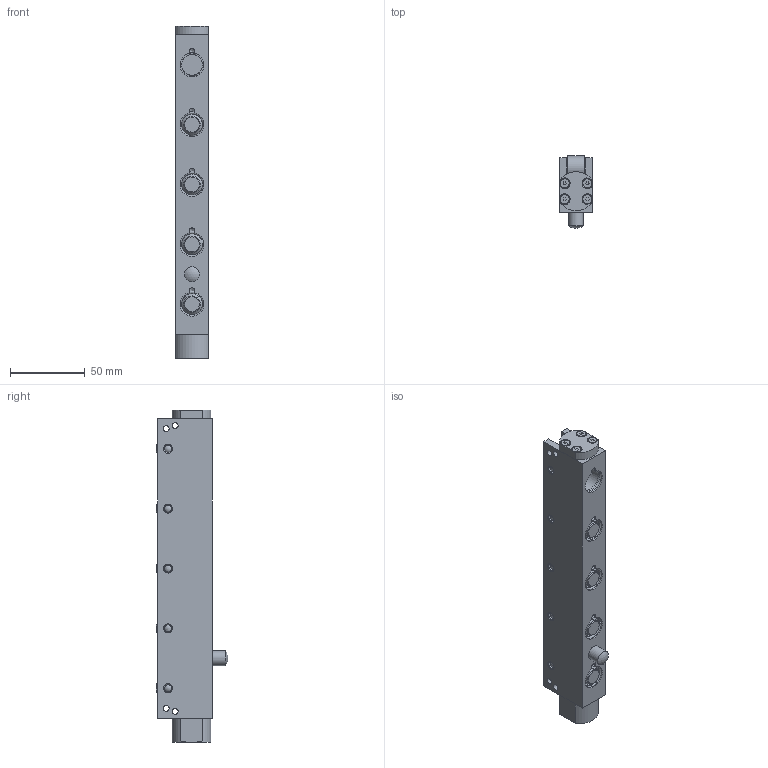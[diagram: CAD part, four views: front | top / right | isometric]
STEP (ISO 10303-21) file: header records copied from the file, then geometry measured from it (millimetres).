
FILE_DESCRIPTION(/* description */ (''),/* implementation_level */ '2;1');
FILE_NAME(/* name */ 'S:\EASCN Vault\Designs\Standard Part\DIE LIFTERS\EHR\EHR- 3D step\EHR22 - 3D step complete serie\EHR22-05.stp',/* time_stamp */ '2019-07-30T15:38:36+08:00',/* author */ ('yue.yang'),/* organization */ (''),/* preprocessor_version */ 'ST-DEVELOPER v17',/* originating_system */ 'Autodesk Inventor 2019',/* authorisation */ '');
FILE_SCHEMA (('AUTOMOTIVE_DESIGN { 1 0 10303 214 3 1 1 }'));
Length unit declared in the file: millimetre
Products named in the file (1): EHR22-05_Shrinkwrap_1
Bounding box: 21.8 x 48.05 x 222 mm (x, y, z)
Volume: 130344.9 mm3; surface area: 53149.6 mm2
Topology: 1 solids, 1 shells, 411 faces, 1183 edges, 813 vertices
Faces by surface type: plane 149, cylinder 131, cone 73, torus 47, sphere 11
Full cylindrical faces by diameter (mm): 3 x9, 3.2 x8, 4 x8, 5 x20, 6 x14, 8.566 x1, 10 x3, 11 x4, 12.5 x10, 13.4 x4, 13.8 x4, 15.95 x8, 16 x14
Entity records: 14822 total; most frequent: CARTESIAN_POINT 3204, DIRECTION 2488, ORIENTED_EDGE 2340, EDGE_CURVE 1170, AXIS2_PLACEMENT_3D 1063, VERTEX_POINT 813, CIRCLE 651, EDGE_LOOP 499
